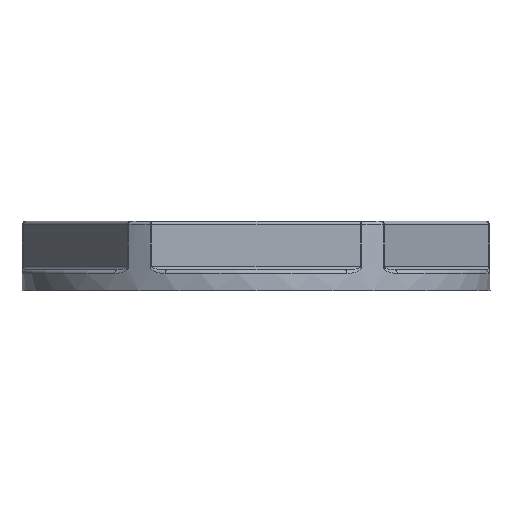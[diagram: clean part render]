
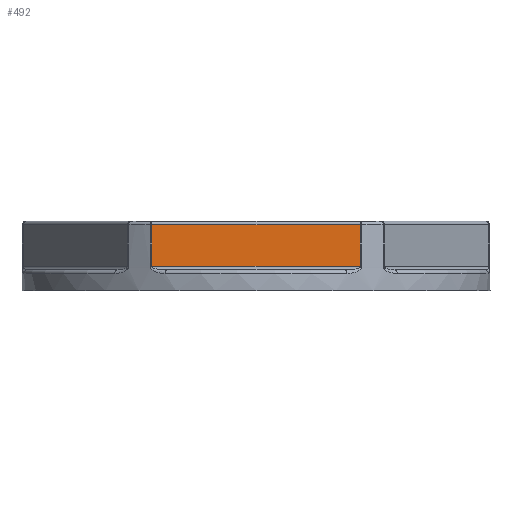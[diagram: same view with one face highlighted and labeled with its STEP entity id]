
A CAD part, front view. The second image highlights one B-rep face of the part: STEP entity #492.
In plain terms, the highlighted planar face has unit normal (0, -1, 0.009).
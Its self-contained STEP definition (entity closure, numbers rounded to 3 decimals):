
#170 = CARTESIAN_POINT ( 'NONE',  ( -5.986, -11.967, 3.802 ) ) ;
#298 = CARTESIAN_POINT ( 'NONE',  ( 5.989, -11.981, 2.199 ) ) ;
#324 = CARTESIAN_POINT ( 'NONE',  ( 5.988, -11.977, 2.6 ) ) ;
#426 = VERTEX_POINT ( 'NONE', #170 ) ;
#492 = ADVANCED_FACE ( 'NONE', ( #3463 ), #5225, .T. ) ;
#562 = CARTESIAN_POINT ( 'NONE',  ( -6.928, -12., 0. ) ) ;
#714 = CARTESIAN_POINT ( 'NONE',  ( -5.988, -11.977, 2.6 ) ) ;
#904 = EDGE_LOOP ( 'NONE', ( #3716, #2922, #2791, #4094 ) ) ;
#935 = EDGE_CURVE ( 'NONE', #1652, #2258, #2524, .T. ) ;
#1053 = CARTESIAN_POINT ( 'NONE',  ( -5.986, -11.967, 3.802 ) ) ;
#1260 = VECTOR ( 'NONE', #5110, 1000. ) ;
#1626 = CARTESIAN_POINT ( 'NONE',  ( -5.989, -11.981, 2.199 ) ) ;
#1652 = VERTEX_POINT ( 'NONE', #3456 ) ;
#1685 = LINE ( 'NONE', #5449, #2947 ) ;
#2020 = CARTESIAN_POINT ( 'NONE',  ( 5.987, -11.974, 3.001 ) ) ;
#2258 = VERTEX_POINT ( 'NONE', #2305 ) ;
#2305 = CARTESIAN_POINT ( 'NONE',  ( 5.986, -11.967, 3.802 ) ) ;
#2440 = CARTESIAN_POINT ( 'NONE',  ( 5.991, -11.988, 1.398 ) ) ;
#2524 = B_SPLINE_CURVE_WITH_KNOTS ( 'NONE', 3,
 ( #2440, #4115, #298, #324, #2020, #3702, #5371 ),
 .UNSPECIFIED., .F., .F.,
 ( 4, 3, 4 ),
 ( 0., 0.001, 0.002 ),
 .UNSPECIFIED. ) ;
#2630 = EDGE_CURVE ( 'NONE', #426, #4847, #3111, .T. ) ;
#2742 = CARTESIAN_POINT ( 'NONE',  ( -5.986, -11.97, 3.401 ) ) ;
#2791 = ORIENTED_EDGE ( 'NONE', *, *, #3462, .T. ) ;
#2897 = CARTESIAN_POINT ( 'NONE',  ( -5.99, -11.984, 1.799 ) ) ;
#2922 = ORIENTED_EDGE ( 'NONE', *, *, #2630, .T. ) ;
#2947 = VECTOR ( 'NONE', #4198, 1000. ) ;
#3111 = B_SPLINE_CURVE_WITH_KNOTS ( 'NONE', 3,
 ( #1053, #2742, #4577, #714, #1626, #2897, #4554 ),
 .UNSPECIFIED., .F., .F.,
 ( 4, 3, 4 ),
 ( 0., 0.001, 0.002 ),
 .UNSPECIFIED. ) ;
#3139 = DIRECTION ( 'NONE',  ( 0., -1., 0.009 ) ) ;
#3363 = AXIS2_PLACEMENT_3D ( 'NONE', #562, #3139, #3581 ) ;
#3434 = CARTESIAN_POINT ( 'NONE',  ( 6.039, -11.988, 1.398 ) ) ;
#3456 = CARTESIAN_POINT ( 'NONE',  ( 5.991, -11.988, 1.398 ) ) ;
#3462 = EDGE_CURVE ( 'NONE', #4847, #1652, #4598, .T. ) ;
#3463 = FACE_OUTER_BOUND ( 'NONE', #904, .T. ) ;
#3581 = DIRECTION ( 'NONE',  ( 0., -0.009, -1. ) ) ;
#3702 = CARTESIAN_POINT ( 'NONE',  ( 5.986, -11.97, 3.401 ) ) ;
#3716 = ORIENTED_EDGE ( 'NONE', *, *, #5060, .T. ) ;
#4094 = ORIENTED_EDGE ( 'NONE', *, *, #935, .T. ) ;
#4115 = CARTESIAN_POINT ( 'NONE',  ( 5.99, -11.984, 1.799 ) ) ;
#4198 = DIRECTION ( 'NONE',  ( -1., 0., 0. ) ) ;
#4407 = CARTESIAN_POINT ( 'NONE',  ( -5.991, -11.988, 1.398 ) ) ;
#4554 = CARTESIAN_POINT ( 'NONE',  ( -5.991, -11.988, 1.398 ) ) ;
#4577 = CARTESIAN_POINT ( 'NONE',  ( -5.987, -11.974, 3.001 ) ) ;
#4598 = LINE ( 'NONE', #3434, #1260 ) ;
#4847 = VERTEX_POINT ( 'NONE', #4407 ) ;
#5060 = EDGE_CURVE ( 'NONE', #2258, #426, #1685, .T. ) ;
#5110 = DIRECTION ( 'NONE',  ( 1., 0., 0. ) ) ;
#5225 = PLANE ( 'NONE',  #3363 ) ;
#5371 = CARTESIAN_POINT ( 'NONE',  ( 5.986, -11.967, 3.802 ) ) ;
#5449 = CARTESIAN_POINT ( 'NONE',  ( -6.033, -11.967, 3.802 ) ) ;
